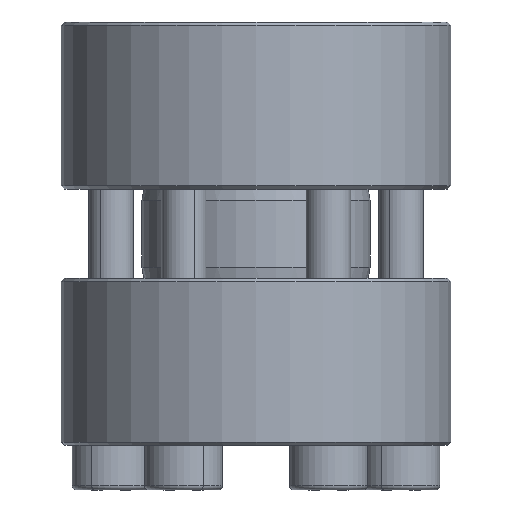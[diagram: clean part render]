
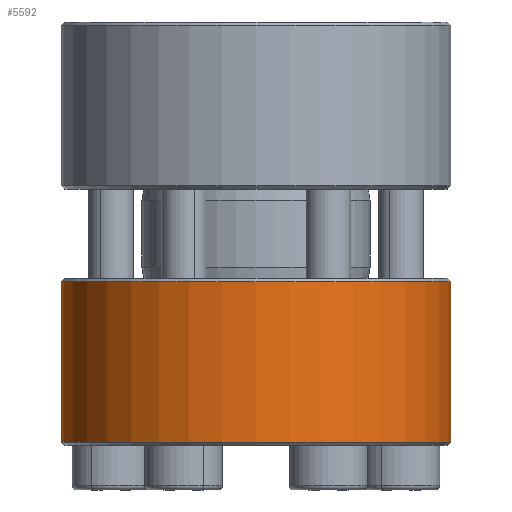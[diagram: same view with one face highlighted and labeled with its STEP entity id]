
A CAD part, front view. The second image highlights one B-rep face of the part: STEP entity #5592.
In plain terms, the highlighted cylindrical face has radius 17.5 mm (diameter 35 mm), a partial arc.
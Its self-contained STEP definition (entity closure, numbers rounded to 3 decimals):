
#485 = VECTOR ( 'NONE', #9650, 1000. ) ;
#636 = CYLINDRICAL_SURFACE ( 'NONE', #1683, 17.5 ) ;
#760 = CARTESIAN_POINT ( 'NONE',  ( -17.5, 0., 0.3 ) ) ;
#1034 = DIRECTION ( 'NONE',  ( 0., 0., 1. ) ) ;
#1054 = CIRCLE ( 'NONE', #1254, 17.5 ) ;
#1064 = CARTESIAN_POINT ( 'NONE',  ( 17.5, 0., 0.3 ) ) ;
#1254 = AXIS2_PLACEMENT_3D ( 'NONE', #5539, #1034, #6280 ) ;
#1368 = DIRECTION ( 'NONE',  ( -1., 0., 0. ) ) ;
#1590 = ORIENTED_EDGE ( 'NONE', *, *, #8501, .F. ) ;
#1683 = AXIS2_PLACEMENT_3D ( 'NONE', #5092, #6581, #1368 ) ;
#2119 = EDGE_CURVE ( 'NONE', #6651, #3047, #3955, .T. ) ;
#2201 = CARTESIAN_POINT ( 'NONE',  ( 17.5, 0., 15. ) ) ;
#2650 = CIRCLE ( 'NONE', #6090, 17.5 ) ;
#3047 = VERTEX_POINT ( 'NONE', #760 ) ;
#3753 = ORIENTED_EDGE ( 'NONE', *, *, #2119, .T. ) ;
#3784 = EDGE_LOOP ( 'NONE', ( #1590, #9614, #3753, #5244 ) ) ;
#3955 = LINE ( 'NONE', #8807, #5952 ) ;
#4168 = DIRECTION ( 'NONE',  ( 0., 0., -1. ) ) ;
#4197 = CARTESIAN_POINT ( 'NONE',  ( 17.5, 0., 14.7 ) ) ;
#4945 = CARTESIAN_POINT ( 'NONE',  ( -17.5, 0., 14.7 ) ) ;
#5092 = CARTESIAN_POINT ( 'NONE',  ( 0., 0., 15. ) ) ;
#5244 = ORIENTED_EDGE ( 'NONE', *, *, #8783, .T. ) ;
#5346 = FACE_OUTER_BOUND ( 'NONE', #3784, .T. ) ;
#5445 = EDGE_CURVE ( 'NONE', #6000, #6651, #2650, .T. ) ;
#5539 = CARTESIAN_POINT ( 'NONE',  ( 0., 0., 0.3 ) ) ;
#5592 = ADVANCED_FACE ( 'NONE', ( #5346 ), #636, .T. ) ;
#5952 = VECTOR ( 'NONE', #8011, 1000. ) ;
#6000 = VERTEX_POINT ( 'NONE', #4197 ) ;
#6090 = AXIS2_PLACEMENT_3D ( 'NONE', #8647, #4168, #9403 ) ;
#6233 = LINE ( 'NONE', #2201, #485 ) ;
#6280 = DIRECTION ( 'NONE',  ( 1., 0., 0. ) ) ;
#6581 = DIRECTION ( 'NONE',  ( 0., 0., -1. ) ) ;
#6651 = VERTEX_POINT ( 'NONE', #4945 ) ;
#8011 = DIRECTION ( 'NONE',  ( 0., 0., -1. ) ) ;
#8501 = EDGE_CURVE ( 'NONE', #6000, #8806, #6233, .T. ) ;
#8647 = CARTESIAN_POINT ( 'NONE',  ( 0., 0., 14.7 ) ) ;
#8783 = EDGE_CURVE ( 'NONE', #3047, #8806, #1054, .T. ) ;
#8806 = VERTEX_POINT ( 'NONE', #1064 ) ;
#8807 = CARTESIAN_POINT ( 'NONE',  ( -17.5, 0., 15. ) ) ;
#9403 = DIRECTION ( 'NONE',  ( 1., 0., 0. ) ) ;
#9614 = ORIENTED_EDGE ( 'NONE', *, *, #5445, .T. ) ;
#9650 = DIRECTION ( 'NONE',  ( 0., 0., -1. ) ) ;
